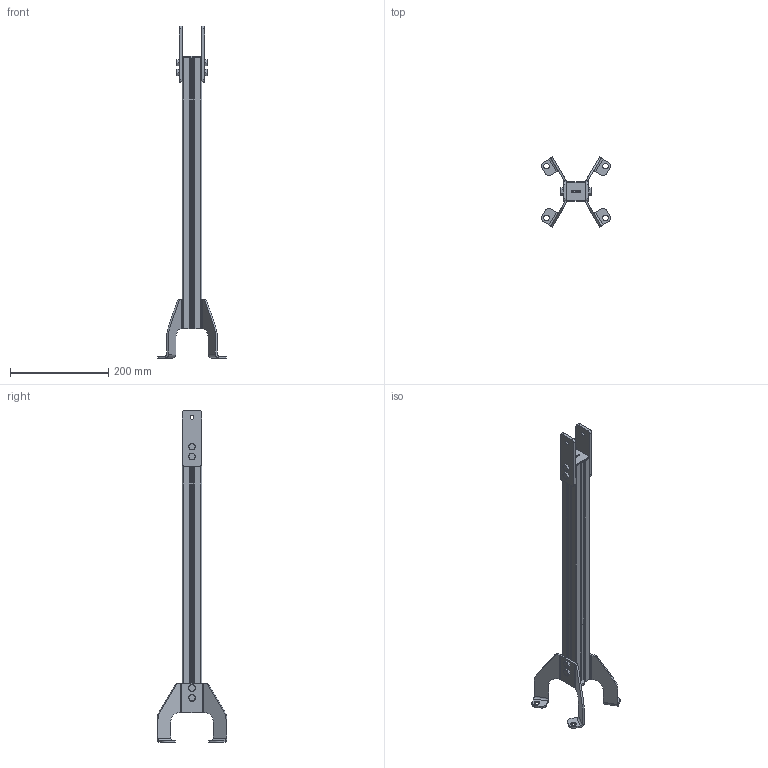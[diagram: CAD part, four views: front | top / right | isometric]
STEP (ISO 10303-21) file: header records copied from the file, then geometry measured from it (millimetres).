
FILE_DESCRIPTION(/* description */ (''),/* implementation_level */ '2;1');
FILE_NAME(/* name */ '\\carryline.intra\privat\users\mathias\Desktop\Tillfälliga filer\Assembly4.stp',/* time_stamp */ '2018-11-20T09:01:59+01:00',/* author */ ('Mathias'),/* organization */ (''),/* preprocessor_version */ 'ST-DEVELOPER v17',/* originating_system */ 'Autodesk Inventor 2018',/* authorisation */ '');
FILE_SCHEMA (('AUTOMOTIVE_DESIGN { 1 0 10303 214 3 1 1 }'));
Length unit declared in the file: millimetre
Products named in the file (7): Assembly4; 100-1365; 100-1152; 100-1010-01; 100-1200; 100-2010; ISO 4018 - M8 x 16
Assembly tree (15 placements, depth 3):
  Assembly4
    100-1365
      100-1152  x2
      100-1010-01
      100-1200  x2
      100-2010
    ISO 4018 - M8 x 16  x8
Bounding box: 140.28 x 142.63 x 676.5 mm (x, y, z)
Volume: 456350.3 mm3; surface area: 358886 mm2
Topology: 14 solids, 14 shells, 670 faces, 1768 edges, 1146 vertices
Faces by surface type: plane 342, cylinder 202, bspline 58, cone 56, torus 8, sphere 4
Full cylindrical faces by diameter (mm): 5.1 x4, 8 x14, 8.2 x4, 11.5 x4
Entity records: 15896 total; most frequent: CARTESIAN_POINT 3599, ORIENTED_EDGE 2598, DIRECTION 2399, EDGE_CURVE 1299, VERTEX_POINT 853, LINE 817, VECTOR 817, AXIS2_PLACEMENT_3D 791
